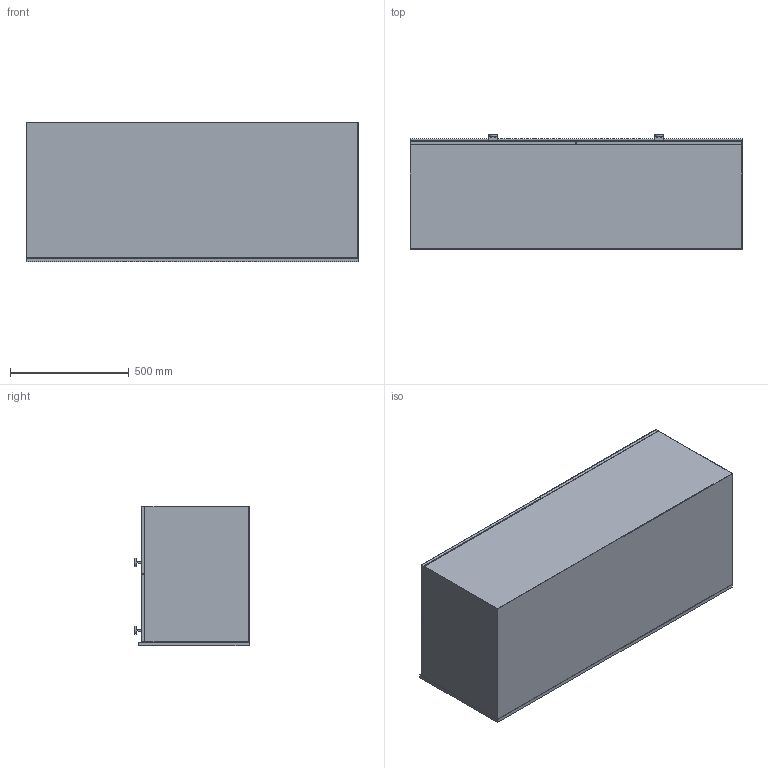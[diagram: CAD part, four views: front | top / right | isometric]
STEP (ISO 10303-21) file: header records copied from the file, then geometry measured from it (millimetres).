
FILE_DESCRIPTION (( 'STEP AP203' ), '1' );
FILE_NAME ('H3-140-Kommod-Shell-drawing.STEP', '2024-10-23T13:41:44', ( '' ), ( '' ), 'SwSTEP 2.0', 'SolidWorks 2024', '' );
FILE_SCHEMA (( 'CONFIG_CONTROL_DESIGN' ));
Length unit declared in the file: millimetre
Products named in the file (5): KNOB A2.01; Kommod-skal-1400x572x440; Lucka-700x286x15; Stenskiva-1400x465x15; H3-140-Kommod-Shell-drawing
Assembly tree (10 placements, depth 2):
  H3-140-Kommod-Shell-drawing
    Kommod-skal-1400x572x440
    Lucka-700x286x15  x4
    Stenskiva-1400x465x15
    KNOB A2.01  x4
Bounding box: 1400 x 481 x 587 mm (x, y, z)
Volume: 374164815.1 mm3; surface area: 6422094.1 mm2
Topology: 10 solids, 10 shells, 188 faces, 400 edges, 200 vertices
Faces by surface type: cylinder 80, plane 68, sphere 40
Full cylindrical faces by diameter (mm): 4 x8, 35 x4
Entity records: 2485 total; most frequent: DIRECTION 352, CARTESIAN_POINT 348, ORIENTED_EDGE 262, AXIS2_PLACEMENT_3D 141, EDGE_CURVE 131, EDGE_LOOP 76, FACE_OUTER_BOUND 74, VERTEX_POINT 73
